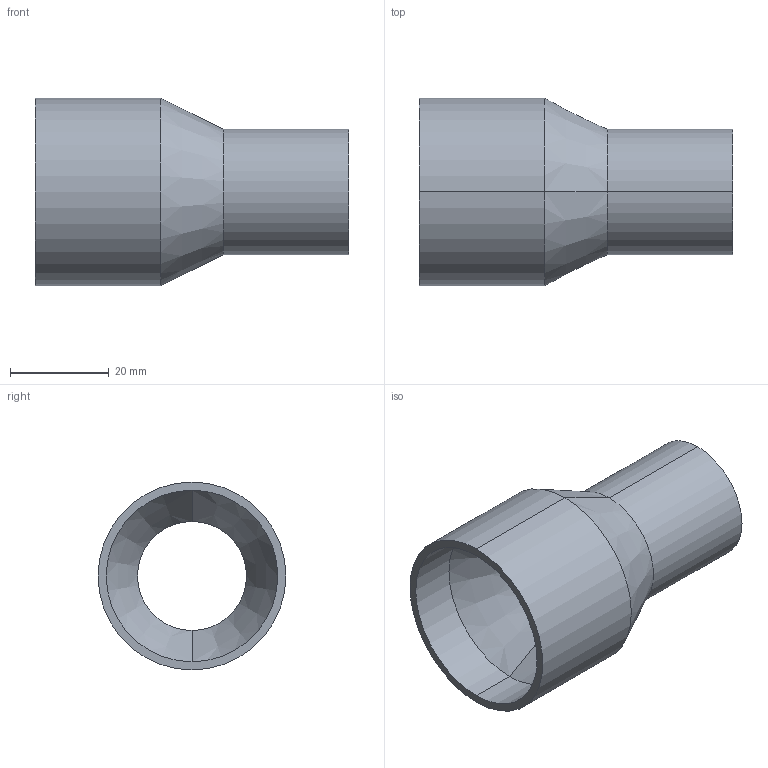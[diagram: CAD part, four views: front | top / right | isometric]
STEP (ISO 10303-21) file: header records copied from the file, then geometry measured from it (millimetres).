
FILE_DESCRIPTION (( 'STEP AP214' ), '1' );
FILE_NAME ('TE31SWW6L1.5x1.0-...STEP', '2016-05-29T09:34:14', ( 'eran' ), ( '' ), 'SwSTEP 2.0', 'SolidWorks 2016', '' );
FILE_SCHEMA (( 'AUTOMOTIVE_DESIGN' ));
Length unit declared in the file: millimetre
Products named in the file (1): TE31SWW6L1.5x1.0-..
Bounding box: 63.5 x 38.1 x 38.1 mm (x, y, z)
Volume: 19364.5 mm3; surface area: 11955.7 mm2
Topology: 1 solids, 1 shells, 14 faces, 28 edges, 16 vertices
Faces by surface type: cylinder 8, cone 4, plane 2
Entity records: 402 total; most frequent: DIRECTION 74, CARTESIAN_POINT 59, ORIENTED_EDGE 56, AXIS2_PLACEMENT_3D 31, EDGE_CURVE 28, VERTEX_POINT 16, CIRCLE 16, EDGE_LOOP 16
